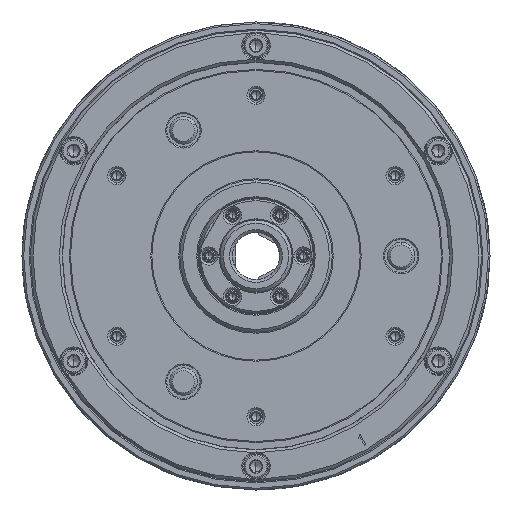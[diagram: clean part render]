
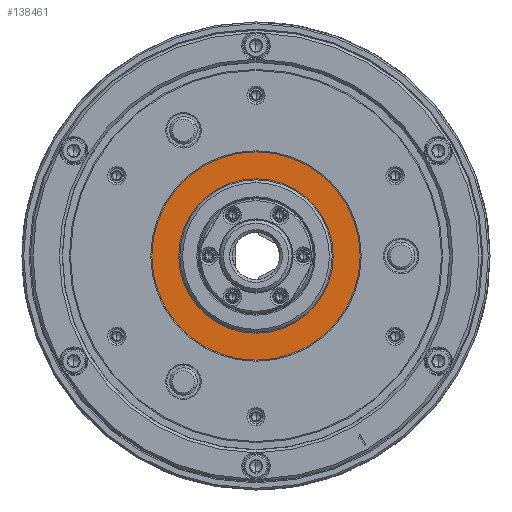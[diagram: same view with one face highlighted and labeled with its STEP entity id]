
A CAD part, left-side view. The second image highlights one B-rep face of the part: STEP entity #138461.
In plain terms, the highlighted planar face has unit normal (-1, 0, 0) as drawn and (0, 0, -1) by its records, which use the part's own axes.
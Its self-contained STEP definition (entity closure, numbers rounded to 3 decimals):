
#109 = CARTESIAN_POINT ( 'NONE',  ( -37.616, 0., -99.8 ) ) ;
#922 = EDGE_LOOP ( 'NONE', ( #168595, #137089 ) ) ;
#2178 = EDGE_LOOP ( 'NONE', ( #70677, #38965 ) ) ;
#6668 = DIRECTION ( 'NONE',  ( 1., 0., 0. ) ) ;
#17305 = CARTESIAN_POINT ( 'NONE',  ( 0., 0., -99.8 ) ) ;
#21029 = CIRCLE ( 'NONE', #54819, 37.616 ) ;
#23229 = CARTESIAN_POINT ( 'NONE',  ( 0., 0., -99.8 ) ) ;
#29201 = CIRCLE ( 'NONE', #137973, 37.616 ) ;
#33930 = DIRECTION ( 'NONE',  ( 1., 0., 0. ) ) ;
#38965 = ORIENTED_EDGE ( 'NONE', *, *, #152080, .F. ) ;
#45206 = CARTESIAN_POINT ( 'NONE',  ( 0., 0., -99.8 ) ) ;
#46190 = VERTEX_POINT ( 'NONE', #109 ) ;
#50469 = DIRECTION ( 'NONE',  ( 0., 0., 1. ) ) ;
#54819 = AXIS2_PLACEMENT_3D ( 'NONE', #45206, #121077, #131866 ) ;
#59615 = DIRECTION ( 'NONE',  ( 0., 0., 1. ) ) ;
#60565 = PLANE ( 'NONE',  #91214 ) ;
#64272 = CARTESIAN_POINT ( 'NONE',  ( 37.616, 0., -99.8 ) ) ;
#70677 = ORIENTED_EDGE ( 'NONE', *, *, #87686, .F. ) ;
#81656 = DIRECTION ( 'NONE',  ( 0., 0., -1. ) ) ;
#86922 = AXIS2_PLACEMENT_3D ( 'NONE', #17305, #164341, #177074 ) ;
#87686 = EDGE_CURVE ( 'NONE', #46190, #134172, #21029, .T. ) ;
#90757 = DIRECTION ( 'NONE',  ( 1., 0., 0. ) ) ;
#91214 = AXIS2_PLACEMENT_3D ( 'NONE', #192083, #59615, #90757 ) ;
#100978 = VERTEX_POINT ( 'NONE', #154831 ) ;
#107844 = EDGE_CURVE ( 'NONE', #192305, #100978, #189531, .T. ) ;
#107892 = CARTESIAN_POINT ( 'NONE',  ( 0., 0., -99.8 ) ) ;
#119315 = EDGE_CURVE ( 'NONE', #100978, #192305, #190565, .T. ) ;
#121077 = DIRECTION ( 'NONE',  ( 0., 0., 1. ) ) ;
#127449 = CARTESIAN_POINT ( 'NONE',  ( -27.9, 0., -99.8 ) ) ;
#131866 = DIRECTION ( 'NONE',  ( 1., 0., 0. ) ) ;
#132659 = FACE_OUTER_BOUND ( 'NONE', #2178, .T. ) ;
#133612 = FACE_BOUND ( 'NONE', #922, .T. ) ;
#134172 = VERTEX_POINT ( 'NONE', #64272 ) ;
#137089 = ORIENTED_EDGE ( 'NONE', *, *, #107844, .F. ) ;
#137973 = AXIS2_PLACEMENT_3D ( 'NONE', #107892, #50469, #33930 ) ;
#138461 = ADVANCED_FACE ( 'NONE', ( #132659, #133612 ), #60565, .F. ) ;
#152080 = EDGE_CURVE ( 'NONE', #134172, #46190, #29201, .T. ) ;
#154831 = CARTESIAN_POINT ( 'NONE',  ( 27.9, 0., -99.8 ) ) ;
#156338 = AXIS2_PLACEMENT_3D ( 'NONE', #23229, #81656, #6668 ) ;
#164341 = DIRECTION ( 'NONE',  ( 0., 0., -1. ) ) ;
#168595 = ORIENTED_EDGE ( 'NONE', *, *, #119315, .F. ) ;
#177074 = DIRECTION ( 'NONE',  ( 1., 0., 0. ) ) ;
#189531 = CIRCLE ( 'NONE', #86922, 27.9 ) ;
#190565 = CIRCLE ( 'NONE', #156338, 27.9 ) ;
#192083 = CARTESIAN_POINT ( 'NONE',  ( 0., -38., -99.8 ) ) ;
#192305 = VERTEX_POINT ( 'NONE', #127449 ) ;
